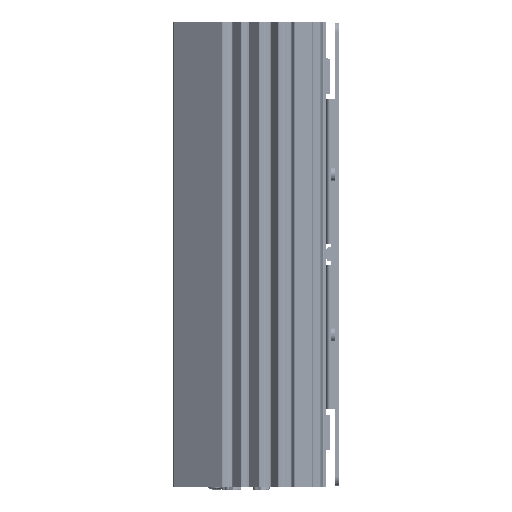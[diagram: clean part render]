
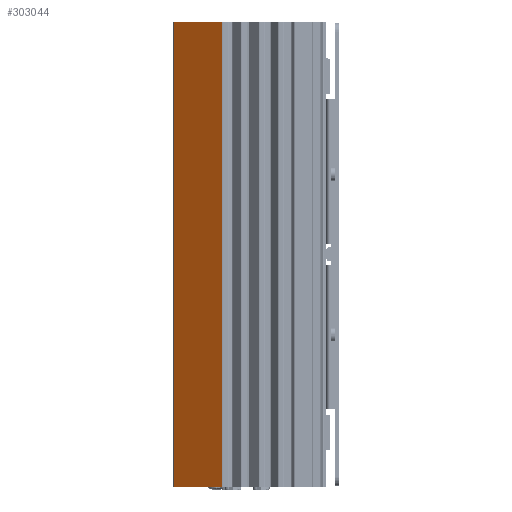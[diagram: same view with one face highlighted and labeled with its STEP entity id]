
A CAD part, left-side view. The second image highlights one B-rep face of the part: STEP entity #303044.
In plain terms, the highlighted planar face has unit normal (-0.819, 0.574, 0).
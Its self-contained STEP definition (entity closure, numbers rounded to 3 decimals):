
#43914 = VERTEX_POINT ( 'NONE', #620521 ) ;
#49879 = VECTOR ( 'NONE', #641855, 1000. ) ;
#65548 = VERTEX_POINT ( 'NONE', #264569 ) ;
#145837 = EDGE_CURVE ( 'NONE', #65548, #168566, #212287, .T. ) ;
#168566 = VERTEX_POINT ( 'NONE', #274914 ) ;
#169849 = CARTESIAN_POINT ( 'NONE',  ( -113.398, -7.532, 130.5 ) ) ;
#188576 = FACE_OUTER_BOUND ( 'NONE', #618500, .T. ) ;
#212287 = LINE ( 'NONE', #314641, #49879 ) ;
#225687 = CARTESIAN_POINT ( 'NONE',  ( -94.26, 19.8, 130.5 ) ) ;
#264569 = CARTESIAN_POINT ( 'NONE',  ( -94.42, 19.571, 130.5 ) ) ;
#268015 = ORIENTED_EDGE ( 'NONE', *, *, #530834, .F. ) ;
#274914 = CARTESIAN_POINT ( 'NONE',  ( -94.42, 19.571, -130.5 ) ) ;
#280478 = DIRECTION ( 'NONE',  ( -0.574, -0.819, 0. ) ) ;
#298131 = PLANE ( 'NONE',  #314854 ) ;
#303044 = ADVANCED_FACE ( 'NONE', ( #188576 ), #298131, .F. ) ;
#310678 = EDGE_CURVE ( 'NONE', #43914, #636050, #671565, .T. ) ;
#314641 = CARTESIAN_POINT ( 'NONE',  ( -94.42, 19.571, 130.5 ) ) ;
#314854 = AXIS2_PLACEMENT_3D ( 'NONE', #460585, #680179, #353297 ) ;
#329278 = ORIENTED_EDGE ( 'NONE', *, *, #513746, .T. ) ;
#330454 = DIRECTION ( 'NONE',  ( -0.574, -0.819, 0. ) ) ;
#353216 = LINE ( 'NONE', #225687, #481185 ) ;
#353297 = DIRECTION ( 'NONE',  ( 0.574, 0.819, 0. ) ) ;
#372003 = ORIENTED_EDGE ( 'NONE', *, *, #310678, .T. ) ;
#382795 = LINE ( 'NONE', #657477, #673002 ) ;
#460585 = CARTESIAN_POINT ( 'NONE',  ( -94.26, 19.8, 130.5 ) ) ;
#481185 = VECTOR ( 'NONE', #280478, 1000. ) ;
#513746 = EDGE_CURVE ( 'NONE', #168566, #43914, #382795, .T. ) ;
#526291 = VECTOR ( 'NONE', #620658, 1000. ) ;
#530834 = EDGE_CURVE ( 'NONE', #65548, #636050, #353216, .T. ) ;
#550183 = ORIENTED_EDGE ( 'NONE', *, *, #145837, .T. ) ;
#565658 = CARTESIAN_POINT ( 'NONE',  ( -113.398, -7.532, 130.5 ) ) ;
#618500 = EDGE_LOOP ( 'NONE', ( #329278, #372003, #268015, #550183 ) ) ;
#620521 = CARTESIAN_POINT ( 'NONE',  ( -113.398, -7.532, -130.5 ) ) ;
#620658 = DIRECTION ( 'NONE',  ( 0., 0., 1. ) ) ;
#636050 = VERTEX_POINT ( 'NONE', #169849 ) ;
#641855 = DIRECTION ( 'NONE',  ( 0., 0., -1. ) ) ;
#657477 = CARTESIAN_POINT ( 'NONE',  ( -94.26, 19.8, -130.5 ) ) ;
#671565 = LINE ( 'NONE', #565658, #526291 ) ;
#673002 = VECTOR ( 'NONE', #330454, 1000. ) ;
#680179 = DIRECTION ( 'NONE',  ( 0.819, -0.574, 0. ) ) ;
